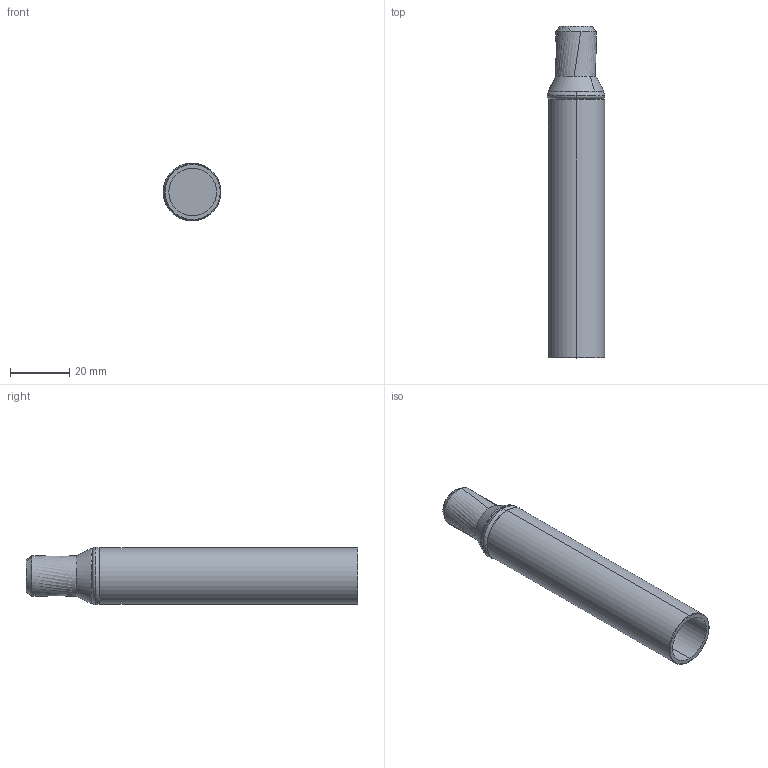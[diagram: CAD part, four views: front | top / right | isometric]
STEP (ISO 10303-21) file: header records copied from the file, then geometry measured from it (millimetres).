
FILE_DESCRIPTION (( 'STEP AP203' ), '1' );
FILE_NAME ('20200818.1-PREMC01_WEB.STEP', '2020-08-19T11:05:00', ( '' ), ( '' ), 'SwSTEP 2.0', 'SolidWorks 2018', '' );
FILE_SCHEMA (( 'CONFIG_CONTROL_DESIGN' ));
Length unit declared in the file: millimetre
Products named in the file (1): 20200818.1-PREMC01_WEB
Bounding box: 19.45 x 111.93 x 19.45 mm (x, y, z)
Volume: 25224.3 mm3; surface area: 8480.7 mm2
Topology: 3 solids, 3 shells, 30 faces, 64 edges, 40 vertices
Faces by surface type: bspline 10, torus 8, cylinder 6, plane 6
Entity records: 4887 total; most frequent: CARTESIAN_POINT 4219, ORIENTED_EDGE 128, DIRECTION 108, EDGE_CURVE 64, AXIS2_PLACEMENT_3D 51, VERTEX_POINT 40, EDGE_LOOP 32, CIRCLE 30
